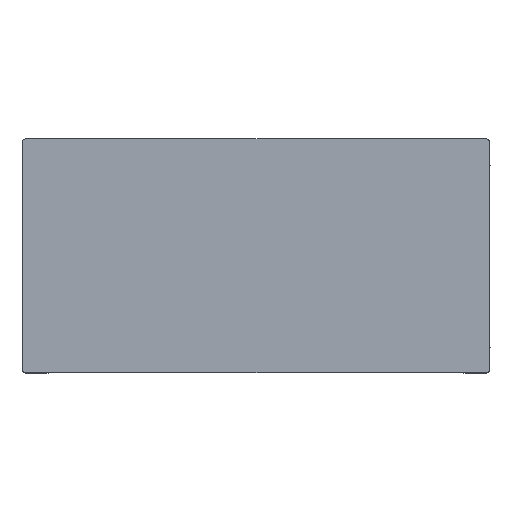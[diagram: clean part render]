
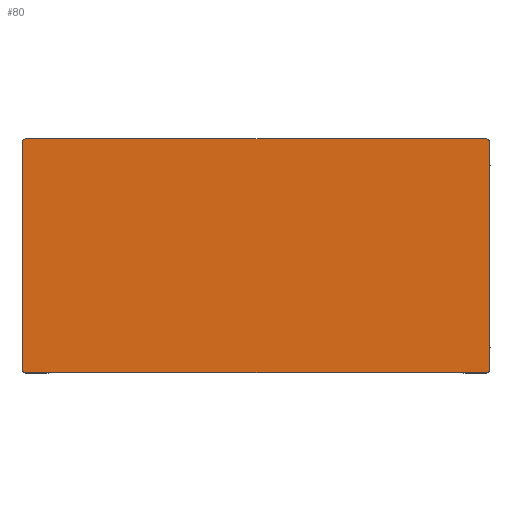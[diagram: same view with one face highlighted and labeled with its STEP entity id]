
A CAD part, top view. The second image highlights one B-rep face of the part: STEP entity #80.
In plain terms, the highlighted planar face has unit normal (0, 0, 1).
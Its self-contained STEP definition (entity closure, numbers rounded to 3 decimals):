
#80=ADVANCED_FACE($,(#254),#2198,.T.);
#254=FACE_OUTER_BOUND($,#428,.T.);
#428=EDGE_LOOP($,(#644,#645,#646,#647,#648,#649,#650,#651));
#644=ORIENTED_EDGE($,*,*,#1471,.F.);
#645=ORIENTED_EDGE($,*,*,#1462,.F.);
#646=ORIENTED_EDGE($,*,*,#1470,.F.);
#647=ORIENTED_EDGE($,*,*,#1461,.F.);
#648=ORIENTED_EDGE($,*,*,#1469,.F.);
#649=ORIENTED_EDGE($,*,*,#1460,.F.);
#650=ORIENTED_EDGE($,*,*,#1468,.F.);
#651=ORIENTED_EDGE($,*,*,#1463,.F.);
#1460=EDGE_CURVE($,#1877,#1876,#2458,.T.);
#1461=EDGE_CURVE($,#1879,#1878,#2459,.T.);
#1462=EDGE_CURVE($,#1881,#1880,#2460,.T.);
#1463=EDGE_CURVE($,#1883,#1882,#2461,.T.);
#1468=EDGE_CURVE($,#1882,#1877,#2278,.T.);
#1469=EDGE_CURVE($,#1876,#1879,#2279,.T.);
#1470=EDGE_CURVE($,#1878,#1881,#2280,.T.);
#1471=EDGE_CURVE($,#1880,#1883,#2281,.T.);
#1876=VERTEX_POINT($,#3070);
#1877=VERTEX_POINT($,#3071);
#1878=VERTEX_POINT($,#3072);
#1879=VERTEX_POINT($,#3073);
#1880=VERTEX_POINT($,#3074);
#1881=VERTEX_POINT($,#3075);
#1882=VERTEX_POINT($,#3076);
#1883=VERTEX_POINT($,#3077);
#2198=PLANE($,#2776);
#2278=(
BOUNDED_CURVE()
B_SPLINE_CURVE(2,(#2964,#2965,#2966),.UNSPECIFIED.,.F.,.F.)
B_SPLINE_CURVE_WITH_KNOTS((3,3),(-1.,0.),.UNSPECIFIED.)
CURVE()
GEOMETRIC_REPRESENTATION_ITEM()
RATIONAL_B_SPLINE_CURVE((1.,0.707,1.))
REPRESENTATION_ITEM($)
);
#2279=(
BOUNDED_CURVE()
B_SPLINE_CURVE(2,(#2967,#2968,#2969),.UNSPECIFIED.,.F.,.F.)
B_SPLINE_CURVE_WITH_KNOTS((3,3),(0.,1.),.UNSPECIFIED.)
CURVE()
GEOMETRIC_REPRESENTATION_ITEM()
RATIONAL_B_SPLINE_CURVE((1.,0.707,1.))
REPRESENTATION_ITEM($)
);
#2280=(
BOUNDED_CURVE()
B_SPLINE_CURVE(2,(#2970,#2971,#2972),.UNSPECIFIED.,.F.,.F.)
B_SPLINE_CURVE_WITH_KNOTS((3,3),(0.,1.),.UNSPECIFIED.)
CURVE()
GEOMETRIC_REPRESENTATION_ITEM()
RATIONAL_B_SPLINE_CURVE((1.,0.707,1.))
REPRESENTATION_ITEM($)
);
#2281=(
BOUNDED_CURVE()
B_SPLINE_CURVE(2,(#2973,#2974,#2975),.UNSPECIFIED.,.F.,.F.)
B_SPLINE_CURVE_WITH_KNOTS((3,3),(0.,1.),.UNSPECIFIED.)
CURVE()
GEOMETRIC_REPRESENTATION_ITEM()
RATIONAL_B_SPLINE_CURVE((1.,0.707,1.))
REPRESENTATION_ITEM($)
);
#2458=B_SPLINE_CURVE_WITH_KNOTS($,1,(#2944,#2945),.UNSPECIFIED.,.F.,.F.,
(2,2),(15.,885.),.UNSPECIFIED.);
#2459=B_SPLINE_CURVE_WITH_KNOTS($,1,(#2946,#2947),.UNSPECIFIED.,.F.,.F.,
(2,2),(15.,1785.),.UNSPECIFIED.);
#2460=B_SPLINE_CURVE_WITH_KNOTS($,1,(#2948,#2949),.UNSPECIFIED.,.F.,.F.,
(2,2),(15.,885.),.UNSPECIFIED.);
#2461=B_SPLINE_CURVE_WITH_KNOTS($,1,(#2950,#2951),.UNSPECIFIED.,.F.,.F.,
(2,2),(15.,1785.),.UNSPECIFIED.);
#2776=AXIS2_PLACEMENT_3D($,#3010,#2857,$);
#2857=DIRECTION($,(0.,0.,1.));
#2944=CARTESIAN_POINT($,(0.,15.,742.));
#2945=CARTESIAN_POINT($,(0.,885.,742.));
#2946=CARTESIAN_POINT($,(15.,900.,742.));
#2947=CARTESIAN_POINT($,(1785.,900.,742.));
#2948=CARTESIAN_POINT($,(1800.,885.,742.));
#2949=CARTESIAN_POINT($,(1800.,15.,742.));
#2950=CARTESIAN_POINT($,(1785.,0.,742.));
#2951=CARTESIAN_POINT($,(15.,0.,742.));
#2964=CARTESIAN_POINT($,(15.,0.,742.));
#2965=CARTESIAN_POINT($,(0.,0.,742.));
#2966=CARTESIAN_POINT($,(0.,15.,742.));
#2967=CARTESIAN_POINT($,(0.,885.,742.));
#2968=CARTESIAN_POINT($,(0.,900.,742.));
#2969=CARTESIAN_POINT($,(15.,900.,742.));
#2970=CARTESIAN_POINT($,(1785.,900.,742.));
#2971=CARTESIAN_POINT($,(1800.,900.,742.));
#2972=CARTESIAN_POINT($,(1800.,885.,742.));
#2973=CARTESIAN_POINT($,(1800.,15.,742.));
#2974=CARTESIAN_POINT($,(1800.,0.,742.));
#2975=CARTESIAN_POINT($,(1785.,0.,742.));
#3010=CARTESIAN_POINT($,(0.,0.,742.));
#3070=CARTESIAN_POINT($,(0.,885.,742.));
#3071=CARTESIAN_POINT($,(0.,15.,742.));
#3072=CARTESIAN_POINT($,(1785.,900.,742.));
#3073=CARTESIAN_POINT($,(15.,900.,742.));
#3074=CARTESIAN_POINT($,(1800.,15.,742.));
#3075=CARTESIAN_POINT($,(1800.,885.,742.));
#3076=CARTESIAN_POINT($,(15.,0.,742.));
#3077=CARTESIAN_POINT($,(1785.,0.,742.));
